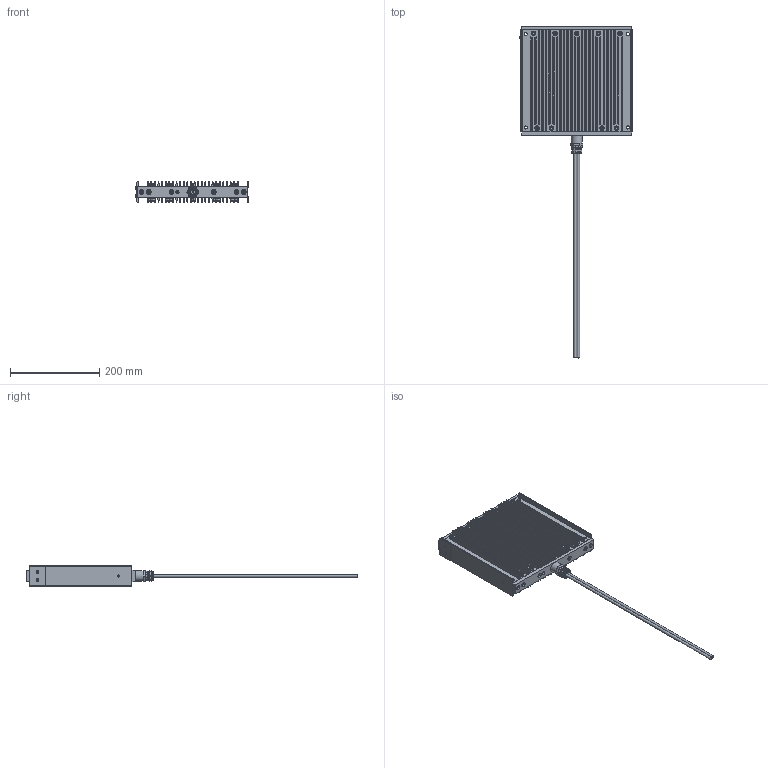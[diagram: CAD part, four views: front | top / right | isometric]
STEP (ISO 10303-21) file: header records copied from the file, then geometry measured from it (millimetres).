
FILE_DESCRIPTION(/* description */ (''),/* implementation_level */ '2;1');
FILE_NAME(/* name */ 'C:\_Vault\Dati\CATALOGO\RCH\INVENTOR\Disegni catalogo\RFH 1000 1PG.stp',/* time_stamp */ '2014-03-25T18:23:00+01:00',/* author */ ('stefano'),/* organization */ (''),/* preprocessor_version */ 'ST-DEVELOPER v15.2',/* originating_system */ 'Autodesk Inventor 2014',/* authorisation */ '');
FILE_SCHEMA (('AUTOMOTIVE_DESIGN { 1 0 10303 214 3 1 1 }'));
Length unit declared in the file: millimetre
Products named in the file (1): RFH 1000 1PG
Bounding box: 254.37 x 746 x 45 mm (x, y, z)
Volume: 26076.7 mm3; surface area: 550402.8 mm2
Topology: 12 solids, 14 shells, 1302 faces, 3283 edges, 2160 vertices
Faces by surface type: plane 617, cylinder 453, cone 196, torus 34, sphere 2
Full cylindrical faces by diameter (mm): 2.5 x2, 2.9 x2, 3 x2, 4.134 x8, 4.25 x1, 4.917 x1, 5 x30, 5.3 x22, 5.5 x23, 5.6 x12, 6 x2, 7 x4, 7.25 x1, 8.5 x9, 9.5 x12, 10 x18, 10.5 x12, 13 x1, 13.376 x1, 14.4 x1, 16.4 x1, 19 x1, 19.3 x1, 20.4 x3, 22 x2, 24 x1
Entity records: 39443 total; most frequent: CARTESIAN_POINT 8985, DIRECTION 5994, ORIENTED_EDGE 5832, EDGE_CURVE 2914, AXIS2_PLACEMENT_3D 2377, VERTEX_POINT 2032, EDGE_LOOP 1770, STYLED_ITEM 1303
